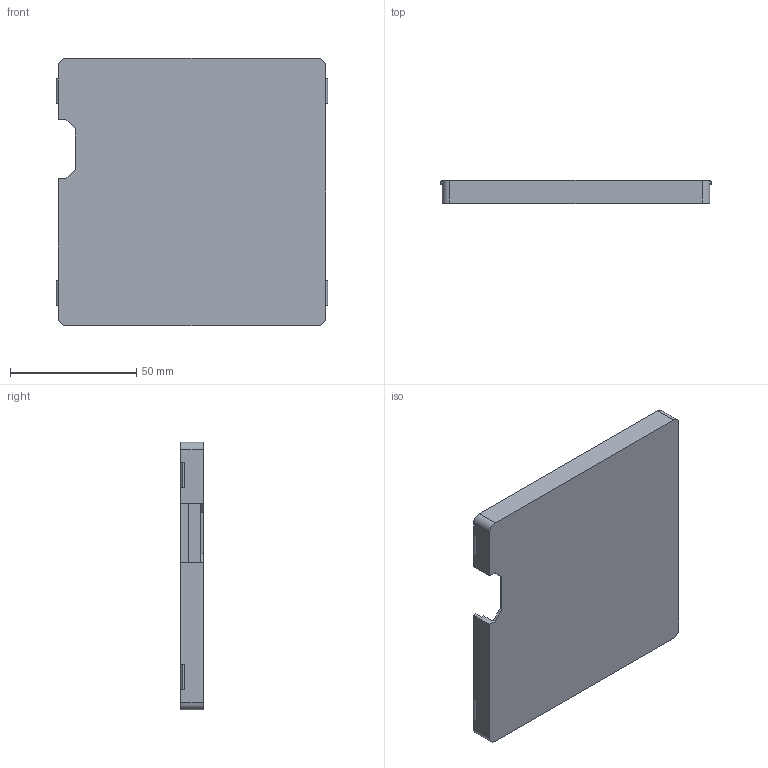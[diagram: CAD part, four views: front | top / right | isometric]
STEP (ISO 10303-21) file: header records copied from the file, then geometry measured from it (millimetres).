
FILE_DESCRIPTION (( 'STEP AP203' ), '1' );
FILE_NAME ('AS07-01-258-003A PCB BASE CASE_EK_AUAV01.STEP', '2024-08-23T16:24:40', ( '' ), ( '' ), 'SwSTEP 2.0', 'SolidWorks 2023', '' );
FILE_SCHEMA (( 'CONFIG_CONTROL_DESIGN' ));
Length unit declared in the file: millimetre
Products named in the file (1): AS07-01-258-003A PCB BASE CASE_EK_AUAV01
Bounding box: 107.5 x 9 x 106 mm (x, y, z)
Volume: 17998.8 mm3; surface area: 29192.6 mm2
Topology: 1 solids, 1 shells, 58 faces, 144 edges, 96 vertices
Faces by surface type: plane 36, cylinder 22
Entity records: 1809 total; most frequent: DIRECTION 306, CARTESIAN_POINT 299, ORIENTED_EDGE 288, EDGE_CURVE 144, AXIS2_PLACEMENT_3D 103, VECTOR 100, LINE 100, VERTEX_POINT 96
